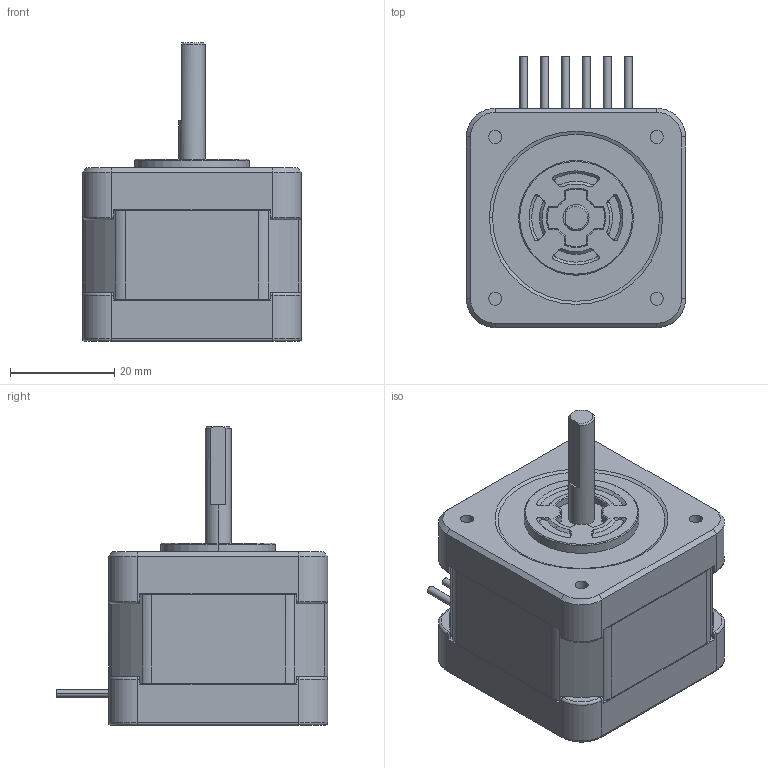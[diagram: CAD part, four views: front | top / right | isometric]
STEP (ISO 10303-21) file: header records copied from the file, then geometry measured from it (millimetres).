
FILE_DESCRIPTION (( 'STEP AP203' ), '1' );
FILE_NAME ('SH1421-0441.STEP', '2012-06-26T11:19:36', ( 'sanyodenki-admin' ), ( '' ), 'SwSTEP 2.0', 'SolidWorks 2011', '' );
FILE_SCHEMA (( 'CONFIG_CONTROL_DESIGN' ));
Length unit declared in the file: millimetre
Products named in the file (1): SH1421-0441
Bounding box: 42 x 52 x 57.25 mm (x, y, z)
Volume: 57311.7 mm3; surface area: 10550.3 mm2
Topology: 1 solids, 1 shells, 345 faces, 848 edges, 522 vertices
Faces by surface type: plane 153, cylinder 107, cone 55, bspline 18, torus 12
Entity records: 10588 total; most frequent: CARTESIAN_POINT 2452, ORIENTED_EDGE 1692, DIRECTION 1689, EDGE_CURVE 846, AXIS2_PLACEMENT_3D 623, VERTEX_POINT 522, VECTOR 443, LINE 443
